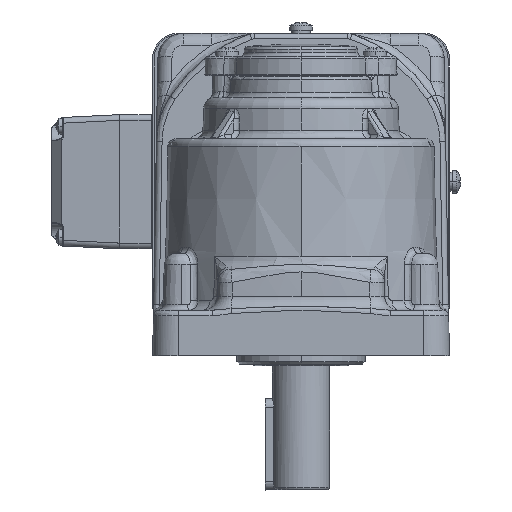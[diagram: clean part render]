
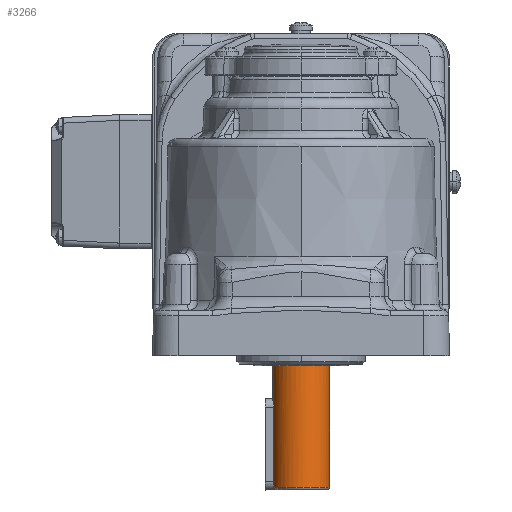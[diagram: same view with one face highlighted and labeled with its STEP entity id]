
A CAD part, left-side view. The second image highlights one B-rep face of the part: STEP entity #3266.
In plain terms, the highlighted cylindrical face has radius 10 mm (diameter 20 mm), a partial arc.
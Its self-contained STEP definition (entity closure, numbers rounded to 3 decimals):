
#300 = CARTESIAN_POINT ( 'NONE',  ( -35.217, 29.628, 86.343 ) ) ;
#774 = DIRECTION ( 'NONE',  ( 0., 0., 1. ) ) ;
#1020 = EDGE_CURVE ( 'NONE', #45554, #81758, #64276, .T. ) ;
#2271 = DIRECTION ( 'NONE',  ( 0., 0., 1. ) ) ;
#3132 = CARTESIAN_POINT ( 'NONE',  ( -32.523, 19.998, 99.508 ) ) ;
#3266 = ADVANCED_FACE ( 'NONE', ( #50706 ), #83251, .T. ) ;
#3376 = EDGE_CURVE ( 'NONE', #42097, #67666, #12875, .T. ) ;
#6126 = VECTOR ( 'NONE', #52396, 1000. ) ;
#8296 = CARTESIAN_POINT ( 'NONE',  ( -34.96, 29.696, 86.761 ) ) ;
#8809 = CARTESIAN_POINT ( 'NONE',  ( -35.33, 29.596, 86.07 ) ) ;
#9342 = CARTESIAN_POINT ( 'NONE',  ( -35.523, 29.537, 85.208 ) ) ;
#10258 = CARTESIAN_POINT ( 'NONE',  ( -32.523, 19.998, 188.508 ) ) ;
#12065 = ORIENTED_EDGE ( 'NONE', *, *, #3376, .F. ) ;
#12875 = LINE ( 'NONE', #28859, #78856 ) ;
#12930 = LINE ( 'NONE', #45374, #42086 ) ;
#14161 = EDGE_CURVE ( 'NONE', #81758, #88282, #12930, .T. ) ;
#14502 = ORIENTED_EDGE ( 'NONE', *, *, #75828, .T. ) ;
#16074 = VECTOR ( 'NONE', #42474, 1000. ) ;
#17132 = EDGE_LOOP ( 'NONE', ( #12065, #14502, #95969, #60527, #74650, #28538, #32497 ) ) ;
#18572 = DIRECTION ( 'NONE',  ( 0., 0., 1. ) ) ;
#25327 = CARTESIAN_POINT ( 'NONE',  ( -32.918, 29.998, 88.008 ) ) ;
#25838 = CARTESIAN_POINT ( 'NONE',  ( -34.902, 29.711, 86.838 ) ) ;
#26416 = CIRCLE ( 'NONE', #63816, 10. ) ;
#26897 = CARTESIAN_POINT ( 'NONE',  ( -34.714, 29.755, 87.06 ) ) ;
#27329 = EDGE_CURVE ( 'NONE', #67666, #88282, #26416, .T. ) ;
#28538 = ORIENTED_EDGE ( 'NONE', *, *, #14161, .T. ) ;
#28859 = CARTESIAN_POINT ( 'NONE',  ( -32.523, 29.998, 188.508 ) ) ;
#32497 = ORIENTED_EDGE ( 'NONE', *, *, #27329, .F. ) ;
#33282 = CARTESIAN_POINT ( 'NONE',  ( -35.444, 29.561, 85.698 ) ) ;
#37432 = LINE ( 'NONE', #52898, #6126 ) ;
#39580 = CARTESIAN_POINT ( 'NONE',  ( -35.523, 29.537, 57.008 ) ) ;
#41238 = CARTESIAN_POINT ( 'NONE',  ( -35.364, 29.586, 85.978 ) ) ;
#41770 = CARTESIAN_POINT ( 'NONE',  ( -35.523, 29.537, 85.008 ) ) ;
#42086 = VECTOR ( 'NONE', #94423, 1000. ) ;
#42097 = VERTEX_POINT ( 'NONE', #93665 ) ;
#42474 = DIRECTION ( 'NONE',  ( 0., 0., -1. ) ) ;
#45374 = CARTESIAN_POINT ( 'NONE',  ( -32.523, 9.998, 188.508 ) ) ;
#45554 = VERTEX_POINT ( 'NONE', #39580 ) ;
#47194 = AXIS2_PLACEMENT_3D ( 'NONE', #49203, #774, #64171 ) ;
#49203 = CARTESIAN_POINT ( 'NONE',  ( -32.523, 19.998, 57.008 ) ) ;
#49769 = CARTESIAN_POINT ( 'NONE',  ( -34.037, 29.889, 87.628 ) ) ;
#50706 = FACE_OUTER_BOUND ( 'NONE', #17132, .T. ) ;
#52396 = DIRECTION ( 'NONE',  ( 0., 0., -1. ) ) ;
#52898 = CARTESIAN_POINT ( 'NONE',  ( -35.523, 29.537, 188.508 ) ) ;
#56460 = VERTEX_POINT ( 'NONE', #91095 ) ;
#58310 = CARTESIAN_POINT ( 'NONE',  ( -35.421, 29.569, 85.791 ) ) ;
#58504 = VERTEX_POINT ( 'NONE', #99122 ) ;
#60527 = ORIENTED_EDGE ( 'NONE', *, *, #67799, .T. ) ;
#63816 = AXIS2_PLACEMENT_3D ( 'NONE', #3132, #18572, #100070 ) ;
#63950 = B_SPLINE_CURVE_WITH_KNOTS ( 'NONE', 3,
 ( #90304, #25327, #99864, #49769, #89787, #26897, #89258, #25838, #8296, #97759, #300, #8809, #41238, #58310, #33282, #82320, #9342, #41770 ),
 .UNSPECIFIED., .F., .F.,
 ( 4, 2, 2, 2, 2, 2, 2, 2, 4 ),
 ( 0., 0.25, 0.5, 0.563, 0.625, 0.75, 0.813, 0.875, 1. ),
 .UNSPECIFIED. ) ;
#64171 = DIRECTION ( 'NONE',  ( 0., -1., 0. ) ) ;
#64276 = CIRCLE ( 'NONE', #47194, 10. ) ;
#67361 = CARTESIAN_POINT ( 'NONE',  ( -32.523, 9.998, 99.508 ) ) ;
#67666 = VERTEX_POINT ( 'NONE', #97411 ) ;
#67799 = EDGE_CURVE ( 'NONE', #56460, #45554, #98475, .T. ) ;
#69875 = EDGE_CURVE ( 'NONE', #58504, #56460, #37432, .T. ) ;
#74650 = ORIENTED_EDGE ( 'NONE', *, *, #1020, .T. ) ;
#75828 = EDGE_CURVE ( 'NONE', #42097, #58504, #63950, .T. ) ;
#78856 = VECTOR ( 'NONE', #85852, 1000. ) ;
#81758 = VERTEX_POINT ( 'NONE', #86963 ) ;
#82320 = CARTESIAN_POINT ( 'NONE',  ( -35.503, 29.543, 85.405 ) ) ;
#83251 = CYLINDRICAL_SURFACE ( 'NONE', #87365, 10. ) ;
#85852 = DIRECTION ( 'NONE',  ( 0., 0., 1. ) ) ;
#86963 = CARTESIAN_POINT ( 'NONE',  ( -32.523, 9.998, 57.008 ) ) ;
#87365 = AXIS2_PLACEMENT_3D ( 'NONE', #10258, #2271, #95416 ) ;
#88282 = VERTEX_POINT ( 'NONE', #67361 ) ;
#89258 = CARTESIAN_POINT ( 'NONE',  ( -34.779, 29.74, 86.988 ) ) ;
#89787 = CARTESIAN_POINT ( 'NONE',  ( -34.368, 29.83, 87.406 ) ) ;
#90304 = CARTESIAN_POINT ( 'NONE',  ( -32.523, 29.998, 88.008 ) ) ;
#91095 = CARTESIAN_POINT ( 'NONE',  ( -35.523, 29.537, 59.008 ) ) ;
#93665 = CARTESIAN_POINT ( 'NONE',  ( -32.523, 29.998, 88.008 ) ) ;
#94423 = DIRECTION ( 'NONE',  ( 0., 0., 1. ) ) ;
#95416 = DIRECTION ( 'NONE',  ( 0., -1., 0. ) ) ;
#95969 = ORIENTED_EDGE ( 'NONE', *, *, #69875, .T. ) ;
#97411 = CARTESIAN_POINT ( 'NONE',  ( -32.523, 29.998, 99.508 ) ) ;
#97759 = CARTESIAN_POINT ( 'NONE',  ( -35.125, 29.654, 86.515 ) ) ;
#98475 = LINE ( 'NONE', #100569, #16074 ) ;
#99122 = CARTESIAN_POINT ( 'NONE',  ( -35.523, 29.537, 85.008 ) ) ;
#99864 = CARTESIAN_POINT ( 'NONE',  ( -33.312, 29.973, 87.929 ) ) ;
#100070 = DIRECTION ( 'NONE',  ( 0., -1., 0. ) ) ;
#100569 = CARTESIAN_POINT ( 'NONE',  ( -35.523, 29.537, 188.508 ) ) ;
